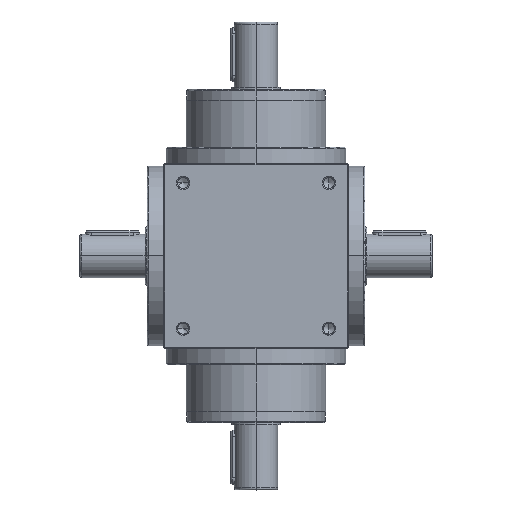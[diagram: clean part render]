
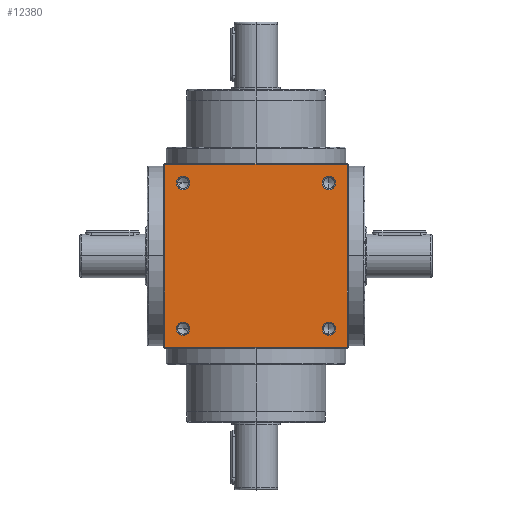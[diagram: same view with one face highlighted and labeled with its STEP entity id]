
A CAD part, top view. The second image highlights one B-rep face of the part: STEP entity #12380.
In plain terms, the highlighted planar face has unit normal (0, 0, 1).
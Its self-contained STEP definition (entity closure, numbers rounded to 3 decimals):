
#272 = CIRCLE ( 'NONE', #12245, 6.1 ) ;
#291 = VECTOR ( 'NONE', #14399, 1000. ) ;
#447 = ORIENTED_EDGE ( 'NONE', *, *, #2761, .F. ) ;
#519 = CARTESIAN_POINT ( 'NONE',  ( 73.1, -67., 85. ) ) ;
#621 = DIRECTION ( 'NONE',  ( 1., 0., 0. ) ) ;
#771 = EDGE_CURVE ( 'NONE', #1113, #11575, #11632, .T. ) ;
#806 = CARTESIAN_POINT ( 'NONE',  ( -67., 67., 85. ) ) ;
#831 = DIRECTION ( 'NONE',  ( 0., 0., 1. ) ) ;
#1018 = VERTEX_POINT ( 'NONE', #5498 ) ;
#1113 = VERTEX_POINT ( 'NONE', #13796 ) ;
#1276 = EDGE_LOOP ( 'NONE', ( #7463, #5743 ) ) ;
#1296 = AXIS2_PLACEMENT_3D ( 'NONE', #7808, #831, #8957 ) ;
#1357 = AXIS2_PLACEMENT_3D ( 'NONE', #13259, #6255, #14444 ) ;
#1389 = DIRECTION ( 'NONE',  ( 0., 0., 1. ) ) ;
#1444 = CARTESIAN_POINT ( 'NONE',  ( 67., -67., 85. ) ) ;
#1452 = FACE_OUTER_BOUND ( 'NONE', #14236, .T. ) ;
#1539 = CIRCLE ( 'NONE', #8513, 6.1 ) ;
#2010 = DIRECTION ( 'NONE',  ( 1., 0., 0. ) ) ;
#2120 = VERTEX_POINT ( 'NONE', #7249 ) ;
#2190 = DIRECTION ( 'NONE',  ( 0., 0., 1. ) ) ;
#2328 = CIRCLE ( 'NONE', #1357, 6.1 ) ;
#2365 = EDGE_CURVE ( 'NONE', #1018, #2663, #11577, .T. ) ;
#2411 = VECTOR ( 'NONE', #15087, 1000. ) ;
#2421 = VERTEX_POINT ( 'NONE', #7917 ) ;
#2456 = EDGE_CURVE ( 'NONE', #2708, #12749, #272, .T. ) ;
#2497 = LINE ( 'NONE', #13048, #7927 ) ;
#2596 = CARTESIAN_POINT ( 'NONE',  ( -73.1, 67., 85. ) ) ;
#2663 = VERTEX_POINT ( 'NONE', #2596 ) ;
#2708 = VERTEX_POINT ( 'NONE', #4907 ) ;
#2761 = EDGE_CURVE ( 'NONE', #2663, #1018, #1539, .T. ) ;
#3504 = CARTESIAN_POINT ( 'NONE',  ( 0., -84., 85. ) ) ;
#4035 = EDGE_LOOP ( 'NONE', ( #8899, #447 ) ) ;
#4457 = DIRECTION ( 'NONE',  ( 0., 0., 1. ) ) ;
#4541 = FACE_BOUND ( 'NONE', #5927, .T. ) ;
#4783 = CARTESIAN_POINT ( 'NONE',  ( 0., 0., 85. ) ) ;
#4907 = CARTESIAN_POINT ( 'NONE',  ( 73.1, 67., 85. ) ) ;
#4919 = EDGE_CURVE ( 'NONE', #12749, #2708, #13286, .T. ) ;
#5171 = ORIENTED_EDGE ( 'NONE', *, *, #771, .F. ) ;
#5196 = CARTESIAN_POINT ( 'NONE',  ( -67., -67., 85. ) ) ;
#5289 = CARTESIAN_POINT ( 'NONE',  ( 60.9, 67., 85. ) ) ;
#5391 = AXIS2_PLACEMENT_3D ( 'NONE', #11421, #4457, #12621 ) ;
#5498 = CARTESIAN_POINT ( 'NONE',  ( -60.9, 67., 85. ) ) ;
#5546 = EDGE_CURVE ( 'NONE', #12399, #14493, #10436, .T. ) ;
#5743 = ORIENTED_EDGE ( 'NONE', *, *, #4919, .F. ) ;
#5924 = CARTESIAN_POINT ( 'NONE',  ( -84., 0., 85. ) ) ;
#5927 = EDGE_LOOP ( 'NONE', ( #9040, #7534 ) ) ;
#5947 = DIRECTION ( 'NONE',  ( -1., 0., 0. ) ) ;
#5995 = ORIENTED_EDGE ( 'NONE', *, *, #14027, .T. ) ;
#6255 = DIRECTION ( 'NONE',  ( 0., 0., 1. ) ) ;
#6356 = DIRECTION ( 'NONE',  ( 1., 0., 0. ) ) ;
#6741 = DIRECTION ( 'NONE',  ( 0., 0., 1. ) ) ;
#6939 = ORIENTED_EDGE ( 'NONE', *, *, #7378, .F. ) ;
#7221 = CARTESIAN_POINT ( 'NONE',  ( 0., 84., 85. ) ) ;
#7249 = CARTESIAN_POINT ( 'NONE',  ( -84., 84., 85. ) ) ;
#7378 = EDGE_CURVE ( 'NONE', #11575, #1113, #2328, .T. ) ;
#7463 = ORIENTED_EDGE ( 'NONE', *, *, #2456, .F. ) ;
#7534 = ORIENTED_EDGE ( 'NONE', *, *, #8290, .F. ) ;
#7641 = FACE_BOUND ( 'NONE', #13047, .T. ) ;
#7721 = LINE ( 'NONE', #7221, #10807 ) ;
#7808 = CARTESIAN_POINT ( 'NONE',  ( -67., 67., 85. ) ) ;
#7917 = CARTESIAN_POINT ( 'NONE',  ( 84., -84., 85. ) ) ;
#7927 = VECTOR ( 'NONE', #11901, 1000. ) ;
#8194 = ORIENTED_EDGE ( 'NONE', *, *, #13138, .F. ) ;
#8290 = EDGE_CURVE ( 'NONE', #14493, #12399, #9076, .T. ) ;
#8513 = AXIS2_PLACEMENT_3D ( 'NONE', #806, #8929, #2010 ) ;
#8899 = ORIENTED_EDGE ( 'NONE', *, *, #2365, .F. ) ;
#8929 = DIRECTION ( 'NONE',  ( 0., 0., 1. ) ) ;
#8957 = DIRECTION ( 'NONE',  ( 1., 0., 0. ) ) ;
#9040 = ORIENTED_EDGE ( 'NONE', *, *, #5546, .F. ) ;
#9076 = CIRCLE ( 'NONE', #9465, 6.1 ) ;
#9108 = CARTESIAN_POINT ( 'NONE',  ( 67., 67., 85. ) ) ;
#9175 = CARTESIAN_POINT ( 'NONE',  ( -84., -84., 85. ) ) ;
#9190 = VERTEX_POINT ( 'NONE', #9175 ) ;
#9283 = ORIENTED_EDGE ( 'NONE', *, *, #9833, .F. ) ;
#9465 = AXIS2_PLACEMENT_3D ( 'NONE', #13738, #6741, #14917 ) ;
#9833 = EDGE_CURVE ( 'NONE', #2421, #9190, #12021, .T. ) ;
#10293 = DIRECTION ( 'NONE',  ( 1., 0., 0. ) ) ;
#10436 = CIRCLE ( 'NONE', #11228, 6.1 ) ;
#10689 = AXIS2_PLACEMENT_3D ( 'NONE', #1444, #1389, #621 ) ;
#10733 = FACE_BOUND ( 'NONE', #1276, .T. ) ;
#10807 = VECTOR ( 'NONE', #14244, 1000. ) ;
#11196 = EDGE_CURVE ( 'NONE', #13123, #2421, #2497, .T. ) ;
#11228 = AXIS2_PLACEMENT_3D ( 'NONE', #5196, #13349, #6356 ) ;
#11337 = AXIS2_PLACEMENT_3D ( 'NONE', #4783, #12934, #5947 ) ;
#11421 = CARTESIAN_POINT ( 'NONE',  ( 67., 67., 85. ) ) ;
#11575 = VERTEX_POINT ( 'NONE', #519 ) ;
#11577 = CIRCLE ( 'NONE', #1296, 6.1 ) ;
#11632 = CIRCLE ( 'NONE', #10689, 6.1 ) ;
#11846 = ORIENTED_EDGE ( 'NONE', *, *, #11196, .F. ) ;
#11901 = DIRECTION ( 'NONE',  ( 0., -1., 0. ) ) ;
#12021 = LINE ( 'NONE', #3504, #2411 ) ;
#12245 = AXIS2_PLACEMENT_3D ( 'NONE', #9108, #2190, #10293 ) ;
#12320 = LINE ( 'NONE', #5924, #291 ) ;
#12380 = ADVANCED_FACE ( 'NONE', ( #1452, #13856, #10733, #4541, #7641 ), #12748, .F. ) ;
#12399 = VERTEX_POINT ( 'NONE', #12990 ) ;
#12621 = DIRECTION ( 'NONE',  ( 1., 0., 0. ) ) ;
#12748 = PLANE ( 'NONE',  #11337 ) ;
#12749 = VERTEX_POINT ( 'NONE', #5289 ) ;
#12934 = DIRECTION ( 'NONE',  ( 0., 0., -1. ) ) ;
#12990 = CARTESIAN_POINT ( 'NONE',  ( -60.9, -67., 85. ) ) ;
#13047 = EDGE_LOOP ( 'NONE', ( #6939, #5171 ) ) ;
#13048 = CARTESIAN_POINT ( 'NONE',  ( 84., 0., 85. ) ) ;
#13123 = VERTEX_POINT ( 'NONE', #13223 ) ;
#13138 = EDGE_CURVE ( 'NONE', #9190, #2120, #12320, .T. ) ;
#13223 = CARTESIAN_POINT ( 'NONE',  ( 84., 84., 85. ) ) ;
#13259 = CARTESIAN_POINT ( 'NONE',  ( 67., -67., 85. ) ) ;
#13286 = CIRCLE ( 'NONE', #5391, 6.1 ) ;
#13349 = DIRECTION ( 'NONE',  ( 0., 0., 1. ) ) ;
#13738 = CARTESIAN_POINT ( 'NONE',  ( -67., -67., 85. ) ) ;
#13796 = CARTESIAN_POINT ( 'NONE',  ( 60.9, -67., 85. ) ) ;
#13856 = FACE_BOUND ( 'NONE', #4035, .T. ) ;
#14027 = EDGE_CURVE ( 'NONE', #13123, #2120, #7721, .T. ) ;
#14236 = EDGE_LOOP ( 'NONE', ( #9283, #11846, #5995, #8194 ) ) ;
#14244 = DIRECTION ( 'NONE',  ( -1., 0., 0. ) ) ;
#14399 = DIRECTION ( 'NONE',  ( 0., 1., 0. ) ) ;
#14444 = DIRECTION ( 'NONE',  ( 1., 0., 0. ) ) ;
#14493 = VERTEX_POINT ( 'NONE', #15118 ) ;
#14917 = DIRECTION ( 'NONE',  ( 1., 0., 0. ) ) ;
#15087 = DIRECTION ( 'NONE',  ( -1., 0., 0. ) ) ;
#15118 = CARTESIAN_POINT ( 'NONE',  ( -73.1, -67., 85. ) ) ;
